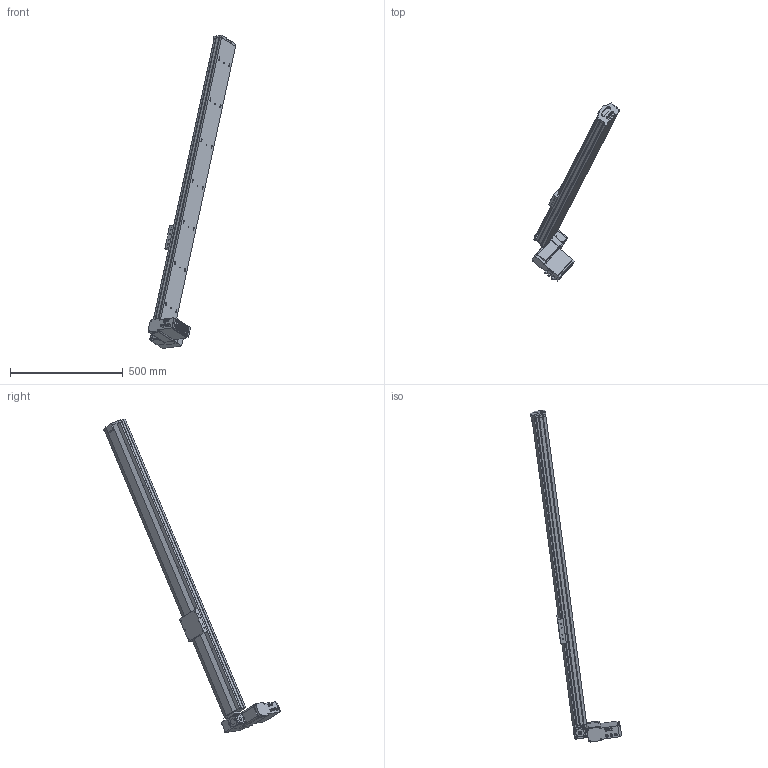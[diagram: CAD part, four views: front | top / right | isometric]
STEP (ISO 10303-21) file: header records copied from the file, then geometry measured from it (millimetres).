
FILE_DESCRIPTION (( 'STEP AP203' ), '1' );
FILE_NAME ('S10 CBH LU S1400.STEP', '2012-10-01T06:57:06', ( '' ), ( '' ), 'SwSTEP 2.0', 'SolidWorks 2010', '' );
FILE_SCHEMA (( 'CONFIG_CONTROL_DESIGN' ));
Length unit declared in the file: millimetre
Products named in the file (14): cache t皻e_Default; Plaque racord_Default; vis M5 L5_Default; palette tbh; embout; S10 CBH LU S1400; plaque de bout s10_Default; cache t皻e axe_Default; renvoi LH_Default; Vis M5 L16-2_Default_1; vis M5 L12_Default; Cvis M5 L30_Default; MOTEUR GMI 61 ; axe 1400
Assembly tree (24 placements, depth 2):
  S10 CBH LU S1400
    vis M5 L12_Default  x4
    Vis M5 L16-2_Default_1  x4
    Cvis M5 L30_Default  x2
    cache t皻e_Default  x2
    axe 1400
    vis M5 L5_Default  x4
    embout
    cache t皻e axe_Default
    plaque de bout s10_Default
    renvoi LH_Default
    palette tbh
    Plaque racord_Default
    MOTEUR GMI 61 
Bounding box: 389.05 x 785.71 x 1387.35 mm (x, y, z)
Volume: 8455113.3 mm3; surface area: 890490.7 mm2
Topology: 24 solids, 24 shells, 1083 faces, 2632 edges, 1630 vertices
Faces by surface type: plane 542, cylinder 392, cone 102, bspline 40, torus 7
Entity records: 27235 total; most frequent: CARTESIAN_POINT 5062, DIRECTION 4391, ORIENTED_EDGE 4080, EDGE_CURVE 2040, AXIS2_PLACEMENT_3D 1561, VERTEX_POINT 1318, VECTOR 1269, LINE 1269
